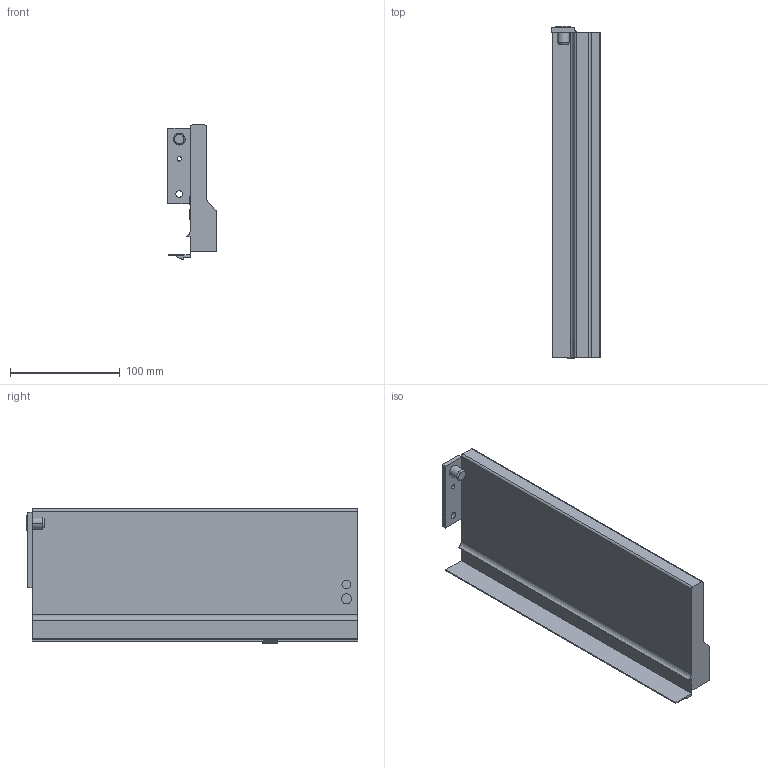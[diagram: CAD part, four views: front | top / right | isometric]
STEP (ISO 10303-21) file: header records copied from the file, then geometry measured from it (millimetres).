
FILE_DESCRIPTION (( 'STEP AP214' ), '1' );
FILE_NAME ('_IMOS_NOVA-Pro_Dekor-H122_CL_NL300_RE.step', '2010-07-06T09:35:46', ( 'grass' ), ( '' ), 'SwSTEP 2.0', 'SolidWorks 2009', '' );
FILE_SCHEMA (( 'AUTOMOTIVE_DESIGN' ));
Length unit declared in the file: millimetre
Products named in the file (1): _IMOS_NOVA-Pro_Dekor-H122_CL_NL300_RE
Bounding box: 44.3 x 302.7 x 122.49 mm (x, y, z)
Volume: 415530.3 mm3; surface area: 126126 mm2
Topology: 1 solids, 1 shells, 73 faces, 194 edges, 128 vertices
Faces by surface type: plane 42, cylinder 26, cone 4, bspline 1
Entity records: 2325 total; most frequent: CARTESIAN_POINT 417, DIRECTION 394, ORIENTED_EDGE 388, EDGE_CURVE 194, VECTOR 136, LINE 136, AXIS2_PLACEMENT_3D 129, VERTEX_POINT 128
